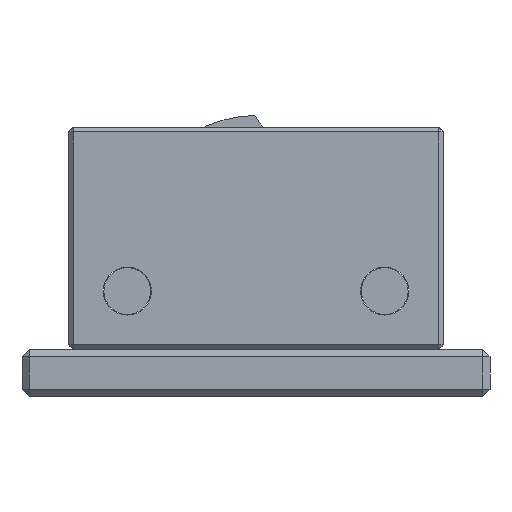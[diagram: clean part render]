
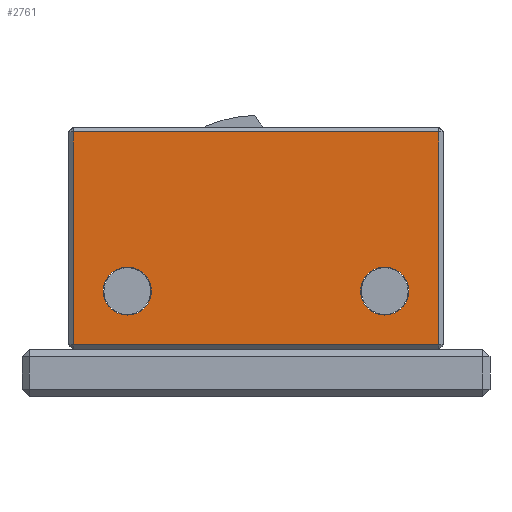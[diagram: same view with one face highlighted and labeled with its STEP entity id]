
A CAD part, left-side view. The second image highlights one B-rep face of the part: STEP entity #2761.
In plain terms, the highlighted planar face has unit normal (-1, 0, 0).
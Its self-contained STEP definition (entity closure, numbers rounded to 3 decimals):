
#1086 = PLANE('',#1087);
#1087 = AXIS2_PLACEMENT_3D('',#1088,#1089,#1090);
#1088 = CARTESIAN_POINT('',(-70.6,-32.,8.4));
#1089 = DIRECTION('',(-0.707,0.,-0.707));
#1090 = DIRECTION('',(0.,1.,0.));
#1968 = VERTEX_POINT('',#1969);
#1969 = CARTESIAN_POINT('',(-71.,-31.2,8.8));
#1990 = EDGE_CURVE('',#1968,#1991,#1993,.T.);
#1991 = VERTEX_POINT('',#1992);
#1992 = CARTESIAN_POINT('',(-71.,31.2,8.8));
#1993 = SURFACE_CURVE('',#1994,(#1998,#2005),.PCURVE_S1.);
#1994 = LINE('',#1995,#1996);
#1995 = CARTESIAN_POINT('',(-71.,-32.,8.8));
#1996 = VECTOR('',#1997,1.);
#1997 = DIRECTION('',(0.,1.,0.));
#1998 = PCURVE('',#1086,#1999);
#1999 = DEFINITIONAL_REPRESENTATION('',(#2000),#2004);
#2000 = LINE('',#2001,#2002);
#2001 = CARTESIAN_POINT('',(0.,-0.566));
#2002 = VECTOR('',#2003,1.);
#2003 = DIRECTION('',(1.,0.));
#2004 = ( GEOMETRIC_REPRESENTATION_CONTEXT(2) 
PARAMETRIC_REPRESENTATION_CONTEXT() REPRESENTATION_CONTEXT('2D SPACE',''
  ) );
#2005 = PCURVE('',#2006,#2011);
#2006 = PLANE('',#2007);
#2007 = AXIS2_PLACEMENT_3D('',#2008,#2009,#2010);
#2008 = CARTESIAN_POINT('',(-71.,-32.,8.));
#2009 = DIRECTION('',(1.,0.,0.));
#2010 = DIRECTION('',(0.,0.,1.));
#2011 = DEFINITIONAL_REPRESENTATION('',(#2012),#2016);
#2012 = LINE('',#2013,#2014);
#2013 = CARTESIAN_POINT('',(0.8,0.));
#2014 = VECTOR('',#2015,1.);
#2015 = DIRECTION('',(0.,-1.));
#2016 = ( GEOMETRIC_REPRESENTATION_CONTEXT(2) 
PARAMETRIC_REPRESENTATION_CONTEXT() REPRESENTATION_CONTEXT('2D SPACE',''
  ) );
#2643 = PLANE('',#2644);
#2644 = AXIS2_PLACEMENT_3D('',#2645,#2646,#2647);
#2645 = CARTESIAN_POINT('',(-70.6,-31.6,8.));
#2646 = DIRECTION('',(-0.707,-0.707,0.));
#2647 = DIRECTION('',(-0.,-0.,-1.));
#2761 = ADVANCED_FACE('',(#2762,#2842,#2877),#2006,.F.);
#2762 = FACE_BOUND('',#2763,.F.);
#2763 = EDGE_LOOP('',(#2764,#2787,#2788,#2816));
#2764 = ORIENTED_EDGE('',*,*,#2765,.F.);
#2765 = EDGE_CURVE('',#1968,#2766,#2768,.T.);
#2766 = VERTEX_POINT('',#2767);
#2767 = CARTESIAN_POINT('',(-71.,-31.2,45.2));
#2768 = SURFACE_CURVE('',#2769,(#2773,#2780),.PCURVE_S1.);
#2769 = LINE('',#2770,#2771);
#2770 = CARTESIAN_POINT('',(-71.,-31.2,8.));
#2771 = VECTOR('',#2772,1.);
#2772 = DIRECTION('',(0.,0.,1.));
#2773 = PCURVE('',#2006,#2774);
#2774 = DEFINITIONAL_REPRESENTATION('',(#2775),#2779);
#2775 = LINE('',#2776,#2777);
#2776 = CARTESIAN_POINT('',(0.,-0.8));
#2777 = VECTOR('',#2778,1.);
#2778 = DIRECTION('',(1.,0.));
#2779 = ( GEOMETRIC_REPRESENTATION_CONTEXT(2) 
PARAMETRIC_REPRESENTATION_CONTEXT() REPRESENTATION_CONTEXT('2D SPACE',''
  ) );
#2780 = PCURVE('',#2643,#2781);
#2781 = DEFINITIONAL_REPRESENTATION('',(#2782),#2786);
#2782 = LINE('',#2783,#2784);
#2783 = CARTESIAN_POINT('',(-0.,-0.566));
#2784 = VECTOR('',#2785,1.);
#2785 = DIRECTION('',(-1.,0.));
#2786 = ( GEOMETRIC_REPRESENTATION_CONTEXT(2) 
PARAMETRIC_REPRESENTATION_CONTEXT() REPRESENTATION_CONTEXT('2D SPACE',''
  ) );
#2787 = ORIENTED_EDGE('',*,*,#1990,.T.);
#2788 = ORIENTED_EDGE('',*,*,#2789,.T.);
#2789 = EDGE_CURVE('',#1991,#2790,#2792,.T.);
#2790 = VERTEX_POINT('',#2791);
#2791 = CARTESIAN_POINT('',(-71.,31.2,45.2));
#2792 = SURFACE_CURVE('',#2793,(#2797,#2804),.PCURVE_S1.);
#2793 = LINE('',#2794,#2795);
#2794 = CARTESIAN_POINT('',(-71.,31.2,8.));
#2795 = VECTOR('',#2796,1.);
#2796 = DIRECTION('',(0.,0.,1.));
#2797 = PCURVE('',#2006,#2798);
#2798 = DEFINITIONAL_REPRESENTATION('',(#2799),#2803);
#2799 = LINE('',#2800,#2801);
#2800 = CARTESIAN_POINT('',(0.,-63.2));
#2801 = VECTOR('',#2802,1.);
#2802 = DIRECTION('',(1.,0.));
#2803 = ( GEOMETRIC_REPRESENTATION_CONTEXT(2) 
PARAMETRIC_REPRESENTATION_CONTEXT() REPRESENTATION_CONTEXT('2D SPACE',''
  ) );
#2804 = PCURVE('',#2805,#2810);
#2805 = PLANE('',#2806);
#2806 = AXIS2_PLACEMENT_3D('',#2807,#2808,#2809);
#2807 = CARTESIAN_POINT('',(-70.6,31.6,8.));
#2808 = DIRECTION('',(0.707,-0.707,0.));
#2809 = DIRECTION('',(-0.,-0.,-1.));
#2810 = DEFINITIONAL_REPRESENTATION('',(#2811),#2815);
#2811 = LINE('',#2812,#2813);
#2812 = CARTESIAN_POINT('',(-0.,-0.566));
#2813 = VECTOR('',#2814,1.);
#2814 = DIRECTION('',(-1.,0.));
#2815 = ( GEOMETRIC_REPRESENTATION_CONTEXT(2) 
PARAMETRIC_REPRESENTATION_CONTEXT() REPRESENTATION_CONTEXT('2D SPACE',''
  ) );
#2816 = ORIENTED_EDGE('',*,*,#2817,.F.);
#2817 = EDGE_CURVE('',#2766,#2790,#2818,.T.);
#2818 = SURFACE_CURVE('',#2819,(#2823,#2830),.PCURVE_S1.);
#2819 = LINE('',#2820,#2821);
#2820 = CARTESIAN_POINT('',(-71.,-32.,45.2));
#2821 = VECTOR('',#2822,1.);
#2822 = DIRECTION('',(0.,1.,0.));
#2823 = PCURVE('',#2006,#2824);
#2824 = DEFINITIONAL_REPRESENTATION('',(#2825),#2829);
#2825 = LINE('',#2826,#2827);
#2826 = CARTESIAN_POINT('',(37.2,0.));
#2827 = VECTOR('',#2828,1.);
#2828 = DIRECTION('',(0.,-1.));
#2829 = ( GEOMETRIC_REPRESENTATION_CONTEXT(2) 
PARAMETRIC_REPRESENTATION_CONTEXT() REPRESENTATION_CONTEXT('2D SPACE',''
  ) );
#2830 = PCURVE('',#2831,#2836);
#2831 = PLANE('',#2832);
#2832 = AXIS2_PLACEMENT_3D('',#2833,#2834,#2835);
#2833 = CARTESIAN_POINT('',(-70.6,-32.,45.6));
#2834 = DIRECTION('',(0.707,0.,-0.707));
#2835 = DIRECTION('',(0.,1.,0.));
#2836 = DEFINITIONAL_REPRESENTATION('',(#2837),#2841);
#2837 = LINE('',#2838,#2839);
#2838 = CARTESIAN_POINT('',(0.,-0.566));
#2839 = VECTOR('',#2840,1.);
#2840 = DIRECTION('',(1.,0.));
#2841 = ( GEOMETRIC_REPRESENTATION_CONTEXT(2) 
PARAMETRIC_REPRESENTATION_CONTEXT() REPRESENTATION_CONTEXT('2D SPACE',''
  ) );
#2842 = FACE_BOUND('',#2843,.F.);
#2843 = EDGE_LOOP('',(#2844));
#2844 = ORIENTED_EDGE('',*,*,#2845,.T.);
#2845 = EDGE_CURVE('',#2846,#2846,#2848,.T.);
#2846 = VERTEX_POINT('',#2847);
#2847 = CARTESIAN_POINT('',(-71.,26.1,18.));
#2848 = SURFACE_CURVE('',#2849,(#2854,#2865),.PCURVE_S1.);
#2849 = CIRCLE('',#2850,4.1);
#2850 = AXIS2_PLACEMENT_3D('',#2851,#2852,#2853);
#2851 = CARTESIAN_POINT('',(-71.,22.,18.));
#2852 = DIRECTION('',(-1.,0.,0.));
#2853 = DIRECTION('',(0.,1.,0.));
#2854 = PCURVE('',#2006,#2855);
#2855 = DEFINITIONAL_REPRESENTATION('',(#2856),#2864);
#2856 = ( BOUNDED_CURVE() B_SPLINE_CURVE(2,(#2857,#2858,#2859,#2860,
#2861,#2862,#2863),.UNSPECIFIED.,.T.,.F.) B_SPLINE_CURVE_WITH_KNOTS((1,2
    ,2,2,2,1),(-2.094,0.,2.094,4.189,
6.283,8.378),.UNSPECIFIED.) CURVE() 
GEOMETRIC_REPRESENTATION_ITEM() RATIONAL_B_SPLINE_CURVE((1.,0.5,1.,0.5,
1.,0.5,1.)) REPRESENTATION_ITEM('') );
#2857 = CARTESIAN_POINT('',(10.,-58.1));
#2858 = CARTESIAN_POINT('',(2.899,-58.1));
#2859 = CARTESIAN_POINT('',(6.449,-51.95));
#2860 = CARTESIAN_POINT('',(10.,-45.8));
#2861 = CARTESIAN_POINT('',(13.551,-51.95));
#2862 = CARTESIAN_POINT('',(17.101,-58.1));
#2863 = CARTESIAN_POINT('',(10.,-58.1));
#2864 = ( GEOMETRIC_REPRESENTATION_CONTEXT(2) 
PARAMETRIC_REPRESENTATION_CONTEXT() REPRESENTATION_CONTEXT('2D SPACE',''
  ) );
#2865 = PCURVE('',#2866,#2871);
#2866 = CYLINDRICAL_SURFACE('',#2867,4.1);
#2867 = AXIS2_PLACEMENT_3D('',#2868,#2869,#2870);
#2868 = CARTESIAN_POINT('',(-73.,22.,18.));
#2869 = DIRECTION('',(-1.,-0.,-0.));
#2870 = DIRECTION('',(0.,1.,0.));
#2871 = DEFINITIONAL_REPRESENTATION('',(#2872),#2876);
#2872 = LINE('',#2873,#2874);
#2873 = CARTESIAN_POINT('',(-6.283,-2.));
#2874 = VECTOR('',#2875,1.);
#2875 = DIRECTION('',(1.,-0.));
#2876 = ( GEOMETRIC_REPRESENTATION_CONTEXT(2) 
PARAMETRIC_REPRESENTATION_CONTEXT() REPRESENTATION_CONTEXT('2D SPACE',''
  ) );
#2877 = FACE_BOUND('',#2878,.F.);
#2878 = EDGE_LOOP('',(#2879));
#2879 = ORIENTED_EDGE('',*,*,#2880,.T.);
#2880 = EDGE_CURVE('',#2881,#2881,#2883,.T.);
#2881 = VERTEX_POINT('',#2882);
#2882 = CARTESIAN_POINT('',(-71.,-17.9,18.));
#2883 = SURFACE_CURVE('',#2884,(#2889,#2900),.PCURVE_S1.);
#2884 = CIRCLE('',#2885,4.1);
#2885 = AXIS2_PLACEMENT_3D('',#2886,#2887,#2888);
#2886 = CARTESIAN_POINT('',(-71.,-22.,18.));
#2887 = DIRECTION('',(-1.,0.,0.));
#2888 = DIRECTION('',(0.,1.,0.));
#2889 = PCURVE('',#2006,#2890);
#2890 = DEFINITIONAL_REPRESENTATION('',(#2891),#2899);
#2891 = ( BOUNDED_CURVE() B_SPLINE_CURVE(2,(#2892,#2893,#2894,#2895,
#2896,#2897,#2898),.UNSPECIFIED.,.T.,.F.) B_SPLINE_CURVE_WITH_KNOTS((1,2
    ,2,2,2,1),(-2.094,0.,2.094,4.189,
6.283,8.378),.UNSPECIFIED.) CURVE() 
GEOMETRIC_REPRESENTATION_ITEM() RATIONAL_B_SPLINE_CURVE((1.,0.5,1.,0.5,
1.,0.5,1.)) REPRESENTATION_ITEM('') );
#2892 = CARTESIAN_POINT('',(10.,-14.1));
#2893 = CARTESIAN_POINT('',(2.899,-14.1));
#2894 = CARTESIAN_POINT('',(6.449,-7.95));
#2895 = CARTESIAN_POINT('',(10.,-1.8));
#2896 = CARTESIAN_POINT('',(13.551,-7.95));
#2897 = CARTESIAN_POINT('',(17.101,-14.1));
#2898 = CARTESIAN_POINT('',(10.,-14.1));
#2899 = ( GEOMETRIC_REPRESENTATION_CONTEXT(2) 
PARAMETRIC_REPRESENTATION_CONTEXT() REPRESENTATION_CONTEXT('2D SPACE',''
  ) );
#2900 = PCURVE('',#2901,#2906);
#2901 = CYLINDRICAL_SURFACE('',#2902,4.1);
#2902 = AXIS2_PLACEMENT_3D('',#2903,#2904,#2905);
#2903 = CARTESIAN_POINT('',(-73.,-22.,18.));
#2904 = DIRECTION('',(-1.,-0.,-0.));
#2905 = DIRECTION('',(0.,1.,0.));
#2906 = DEFINITIONAL_REPRESENTATION('',(#2907),#2911);
#2907 = LINE('',#2908,#2909);
#2908 = CARTESIAN_POINT('',(-6.283,-2.));
#2909 = VECTOR('',#2910,1.);
#2910 = DIRECTION('',(1.,-0.));
#2911 = ( GEOMETRIC_REPRESENTATION_CONTEXT(2) 
PARAMETRIC_REPRESENTATION_CONTEXT() REPRESENTATION_CONTEXT('2D SPACE',''
  ) );
